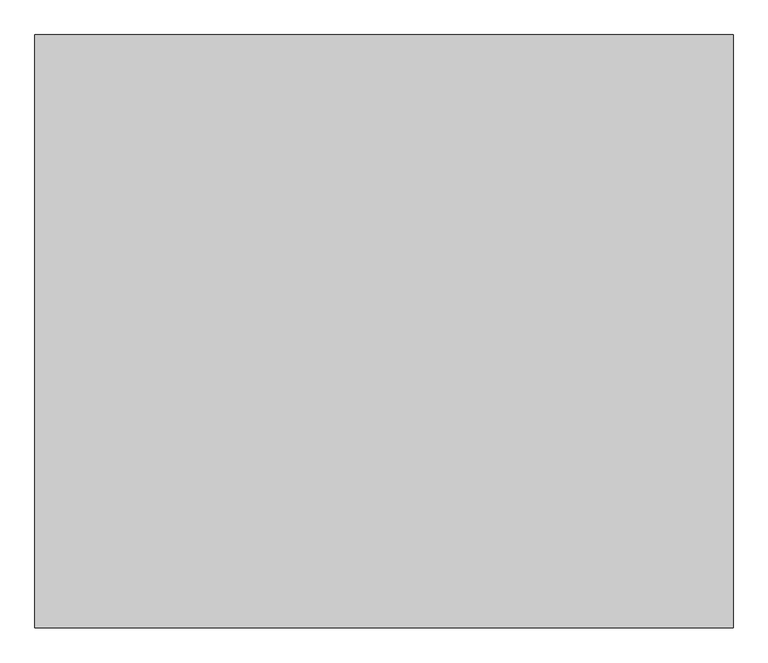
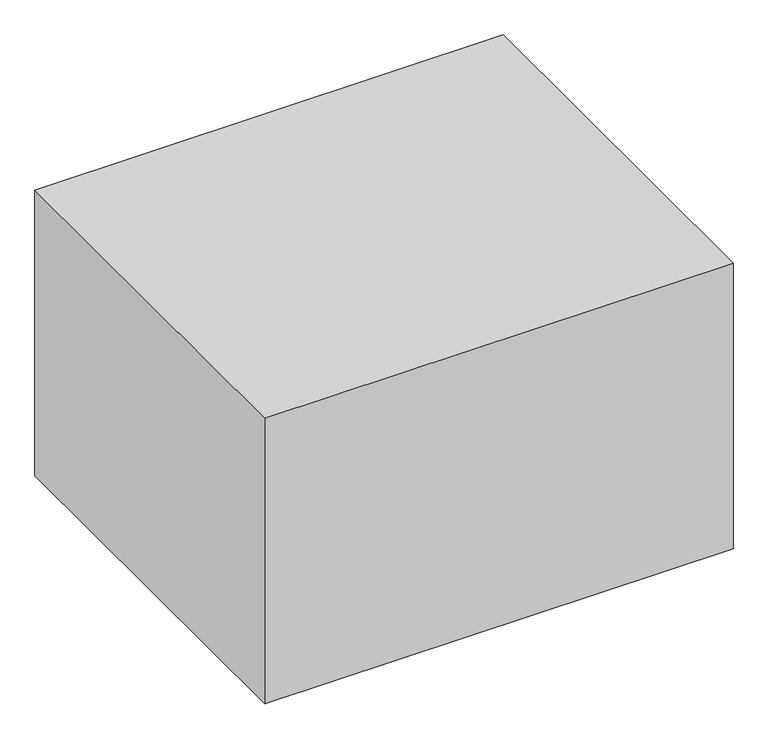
"""IFC4 building model written with IfcOpenShell, lengths in millimetres: proxy geometry, サービススペース : サービススペース."""

from ifc_helpers import new_model, si_unit, frame, origin, place, context, project, spatial, polyline, outline, extrude, source, transform, mapped, element, save


def specialty_equipment_71b71c24(model_context):
    return source(origin(), model_context, "Body", "SweptSolid", [
        extrude(outline(polyline([(1265.0, 1075.0), (1265.0, -1075.0), (-1265.0, -1075.0), (-1265.0, 1075.0), (1265.0, 1075.0)])), frame((0.0, 0.0, -815.5), z_axis=(0.0, 0.0, 1.0), x_axis=(1.0, 0.0, 0.0)), (0.0, 0.0, 1.0), 1631.0),
    ])


if __name__ == "__main__":
    model = new_model("IFC4")
    model_context = context("Model", 3, world=origin())
    ifc_project = project(units=[si_unit("LENGTHUNIT", "METRE", prefix="MILLI")], contexts=[model_context])
    site = spatial("IfcSite", under=ifc_project)
    building = spatial("IfcBuilding", under=site)
    placement = place(None, origin())
    specialty_equipment_shape = specialty_equipment_71b71c24(model_context)
    element("IfcBuildingElementProxy", 1, Name="サービススペース : サービススペース", ObjectType="サービススペース : サービススペース", at=placement, inside=building, context=model_context, shape_type="MappedRepresentation", body=[
        mapped(specialty_equipment_shape, transform((0.0, 0.0, 0.0), x_axis=(1.0, 0.0, 0.0), y_axis=(0.0, 1.0, 0.0), z_axis=(0.0, 0.0, 1.0))),
    ])
    save(model, "model.ifc")
